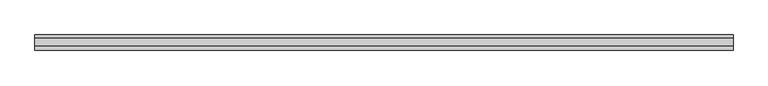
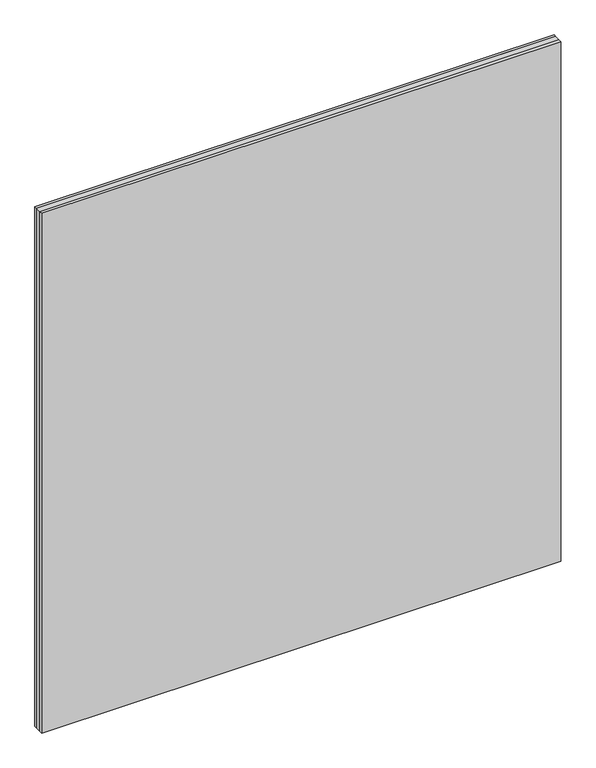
"""IFC4 building model written with IfcOpenShell, lengths in millimetres: plate geometry, 2014_Panel-Cristal-MC_SGG_COOL-LITE-XTREME-50-22 : CLIMALIT PLUS con COOL LITE XTREME 50/22 F2 6 (16 argon90%) 44.2."""

from ifc_helpers import new_model, si_unit, frame, origin, place, context, project, spatial, polyline, outline, extrude, source, transform, mapped, element, save


def plate_31a977c4(model_context):
    return source(origin(), model_context, "Body", "SweptSolid", [
        extrude(outline(polyline([(690.0, 32.4), (690.0, 26.4), (-690.0, 26.4), (-690.0, 32.4), (690.0, 32.4)])), frame((0.0, 0.0, -20.0), z_axis=(0.0, 0.0, 1.0), x_axis=(1.0, 0.0, 0.0)), (0.0, 0.0, 1.0), 1460.0),
        extrude(outline(polyline([(-690.0, 10.4), (690.0, 10.4), (690.0, 1.6), (-690.0, 1.6), (-690.0, 10.4)])), frame((0.0, 0.0, -20.0), z_axis=(0.0, 0.0, 1.0), x_axis=(1.0, 0.0, 0.0)), (0.0, 0.0, 1.0), 1460.0),
        extrude(outline(polyline([(1440.0, -690.0), (-20.0, -690.0), (-20.0, 690.0), (1440.0, 690.0), (1440.0, -690.0)]), holes=[polyline([(1425.0, 675.0), (-5.0, 675.0), (-5.0, -675.0), (1425.0, -675.0), (1425.0, 675.0)])]), frame((0.0, 10.4, 0.0), z_axis=(0.0, 1.0, 0.0), x_axis=(0.0, 0.0, 1.0)), (0.0, 0.0, 1.0), 16.0),
    ])


if __name__ == "__main__":
    model = new_model("IFC4")
    model_context = context("Model", 3, world=origin())
    ifc_project = project(units=[si_unit("LENGTHUNIT", "METRE", prefix="MILLI")], contexts=[model_context])
    site = spatial("IfcSite", under=ifc_project)
    building = spatial("IfcBuilding", under=site)
    placement = place(None, origin())
    plate_shape = plate_31a977c4(model_context)
    element("IfcPlate", 1, ObjectType="2014_Panel-Cristal-MC_SGG_COOL-LITE-XTREME-50-22 : CLIMALIT PLUS con COOL LITE XTREME 50/22 F2 6 (16 argon90%) 44.2", at=placement, inside=building, context=model_context, shape_type="MappedRepresentation", body=[
        mapped(plate_shape, transform((0.0, 0.0, 0.0), x_axis=(1.0, 0.0, 0.0), y_axis=(0.0, 1.0, 0.0), z_axis=(0.0, 0.0, 1.0))),
    ])
    save(model, "model.ifc")
